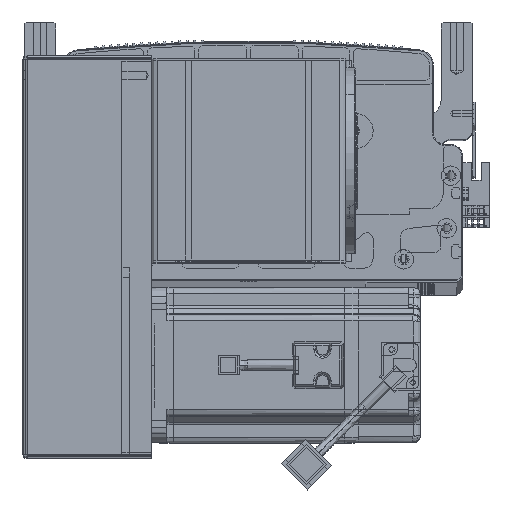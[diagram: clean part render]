
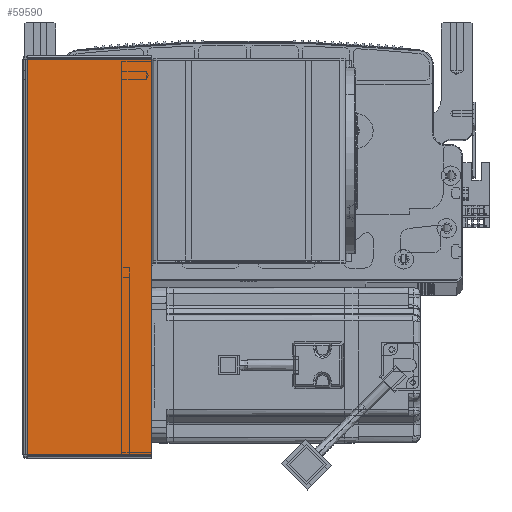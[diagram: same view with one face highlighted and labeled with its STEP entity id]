
A CAD part, top view. The second image highlights one B-rep face of the part: STEP entity #59590.
In plain terms, the highlighted planar face has unit normal (0, 0, 1) as drawn and (0, -1, 0) by its records, which use the part's own axes.
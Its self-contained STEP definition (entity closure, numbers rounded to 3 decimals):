
#8470 = EDGE_CURVE ( 'NONE', #66421, #58948, #20137, .T. ) ;
#10383 = ORIENTED_EDGE ( 'NONE', *, *, #73262, .T. ) ;
#10983 = FACE_OUTER_BOUND ( 'NONE', #46944, .T. ) ;
#14298 = AXIS2_PLACEMENT_3D ( 'NONE', #43187, #28796, #92934 ) ;
#20137 = LINE ( 'NONE', #48695, #36371 ) ;
#24853 = EDGE_CURVE ( 'NONE', #58948, #91589, #61238, .T. ) ;
#28796 = DIRECTION ( 'NONE',  ( 0., 1., 0. ) ) ;
#30725 = CARTESIAN_POINT ( 'NONE',  ( 64.5, -1.5, -0.707 ) ) ;
#31524 = DIRECTION ( 'NONE',  ( 0., 0., 1. ) ) ;
#36371 = VECTOR ( 'NONE', #31524, 1000. ) ;
#40904 = DIRECTION ( 'NONE',  ( 0., 0., 1. ) ) ;
#41311 = DIRECTION ( 'NONE',  ( 1., 0., 0. ) ) ;
#43187 = CARTESIAN_POINT ( 'NONE',  ( 0., -1.5, 0. ) ) ;
#45085 = LINE ( 'NONE', #86401, #85216 ) ;
#46139 = VECTOR ( 'NONE', #41311, 1000. ) ;
#46944 = EDGE_LOOP ( 'NONE', ( #66678, #10383, #71766, #52034 ) ) ;
#48695 = CARTESIAN_POINT ( 'NONE',  ( 0.737, -1.5, 0. ) ) ;
#50062 = CARTESIAN_POINT ( 'NONE',  ( 0., -1.5, -0.707 ) ) ;
#50881 = CARTESIAN_POINT ( 'NONE',  ( 0.737, -1.5, -203.293 ) ) ;
#52034 = ORIENTED_EDGE ( 'NONE', *, *, #24853, .F. ) ;
#58948 = VERTEX_POINT ( 'NONE', #79815 ) ;
#59590 = ADVANCED_FACE ( 'NONE', ( #10983 ), #90534, .F. ) ;
#61238 = LINE ( 'NONE', #50062, #46139 ) ;
#64056 = VECTOR ( 'NONE', #40904, 1000. ) ;
#66421 = VERTEX_POINT ( 'NONE', #50881 ) ;
#66678 = ORIENTED_EDGE ( 'NONE', *, *, #8470, .F. ) ;
#71766 = ORIENTED_EDGE ( 'NONE', *, *, #80307, .T. ) ;
#73262 = EDGE_CURVE ( 'NONE', #66421, #82462, #45085, .T. ) ;
#78384 = DIRECTION ( 'NONE',  ( 1., 0., 0. ) ) ;
#79815 = CARTESIAN_POINT ( 'NONE',  ( 0.737, -1.5, -0.707 ) ) ;
#79995 = CARTESIAN_POINT ( 'NONE',  ( 64.5, -1.5, -203.293 ) ) ;
#80196 = CARTESIAN_POINT ( 'NONE',  ( 64.5, -1.5, 0. ) ) ;
#80307 = EDGE_CURVE ( 'NONE', #82462, #91589, #84159, .T. ) ;
#82462 = VERTEX_POINT ( 'NONE', #79995 ) ;
#84159 = LINE ( 'NONE', #80196, #64056 ) ;
#85216 = VECTOR ( 'NONE', #78384, 1000. ) ;
#86401 = CARTESIAN_POINT ( 'NONE',  ( 0., -1.5, -203.293 ) ) ;
#90534 = PLANE ( 'NONE',  #14298 ) ;
#91589 = VERTEX_POINT ( 'NONE', #30725 ) ;
#92934 = DIRECTION ( 'NONE',  ( -1., 0., 0. ) ) ;
